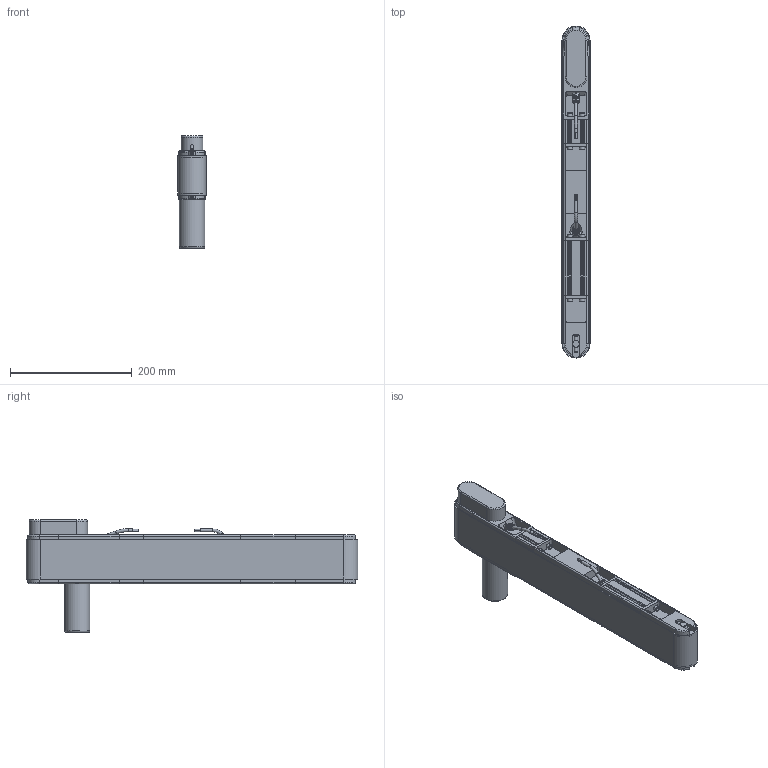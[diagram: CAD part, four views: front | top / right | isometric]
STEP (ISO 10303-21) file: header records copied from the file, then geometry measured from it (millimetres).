
FILE_DESCRIPTION(/* description */ (''),/* implementation_level */ '2;1');
FILE_NAME(/* name */ 'G:\DATEN\CAD\Förderband\Marketing\3D-Modelle (Standard)\FR-40-80-Q\FR-40-80-Q-DL-500-250-K (Motorendrohr 80 mm).stp',/* time_stamp */ '2019-05-08T14:45:49+02:00',/* author */ ('melanie.ochs'),/* organization */ (''),/* preprocessor_version */ 'ST-DEVELOPER v17',/* originating_system */ 'Autodesk Inventor 2019',/* authorisation */ '');
FILE_SCHEMA (('CONFIG_CONTROL_DESIGN'));
Length unit declared in the file: centimetre
Products named in the file (1): FR-40-80-Q-DL-500-250-K (Motorendrohr 80 mm)
Bounding box: 46.4 x 546.4 x 185 mm (x, y, z)
Volume: 1561601.8 mm3; surface area: 496547.5 mm2
Topology: 45 solids, 47 shells, 1497 faces, 4129 edges, 2796 vertices
Faces by surface type: plane 726, cylinder 508, cone 143, bspline 61, torus 59
Full cylindrical faces by diameter (mm): 1.5 x5, 1.755 x4, 2 x6, 2.2 x4, 3.242 x4, 3.8 x4, 4 x2, 4.3 x8, 4.65 x1, 4.917 x2, 5 x22, 5.5 x16, 6 x2, 6.5 x1, 6.773 x2, 6.917 x3, 8 x4, 8.3 x16, 8.5 x16, 8.773 x2, 10 x2, 11 x2, 12 x3, 20 x1, 25 x2, 28 x4, 42 x2, 44 x2
Entity records: 50705 total; most frequent: CARTESIAN_POINT 10330, ORIENTED_EDGE 8198, DIRECTION 8106, EDGE_CURVE 4099, AXIS2_PLACEMENT_3D 2956, VERTEX_POINT 2796, LINE 2194, VECTOR 2194
